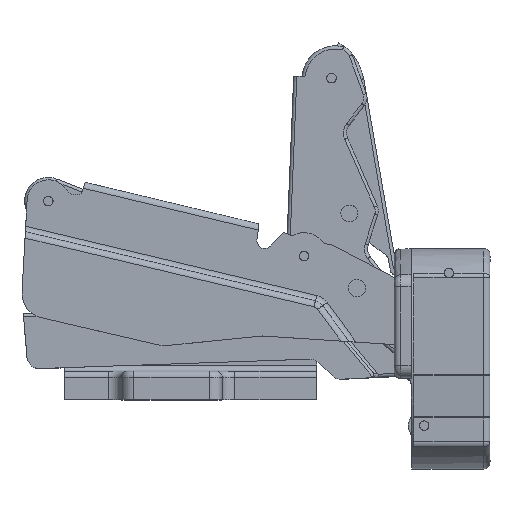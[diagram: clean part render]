
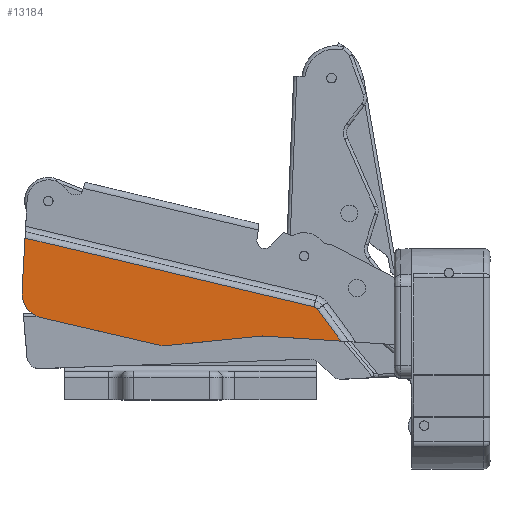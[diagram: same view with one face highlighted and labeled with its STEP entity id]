
A CAD part, top view. The second image highlights one B-rep face of the part: STEP entity #13184.
In plain terms, the highlighted planar face has unit normal (0, 0, 1).
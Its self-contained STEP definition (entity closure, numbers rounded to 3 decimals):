
#965=LINE('',#21919,#1921);
#972=LINE('',#21950,#1928);
#973=LINE('',#21964,#1929);
#1003=LINE('',#22048,#1959);
#1006=LINE('',#22056,#1962);
#1009=LINE('',#22064,#1965);
#1921=VECTOR('',#17345,8.529);
#1928=VECTOR('',#17378,6.237);
#1929=VECTOR('',#17385,47.136);
#1959=VECTOR('',#17485,12.279);
#1962=VECTOR('',#17494,15.413);
#1965=VECTOR('',#17503,19.431);
#2463=PLANE('',#14394);
#3129=FACE_OUTER_BOUND('',#3929,.T.);
#3929=EDGE_LOOP('',(#10326,#10327,#10328,#10329,#10330,#10331,#10332,#10333,
#10334,#10335));
#4676=CIRCLE('',#14349,1.);
#4686=CIRCLE('',#14387,2.);
#4687=CIRCLE('',#14390,2.);
#4688=CIRCLE('',#14393,4.);
#5725=VERTEX_POINT('',#21916);
#5726=VERTEX_POINT('',#21918);
#5736=VERTEX_POINT('',#21946);
#5737=VERTEX_POINT('',#21948);
#5738=VERTEX_POINT('',#21960);
#5757=VERTEX_POINT('',#22047);
#5758=VERTEX_POINT('',#22051);
#5759=VERTEX_POINT('',#22055);
#5760=VERTEX_POINT('',#22059);
#5761=VERTEX_POINT('',#22063);
#7277=EDGE_CURVE('',#5726,#5725,#965,.T.);
#7293=EDGE_CURVE('',#5737,#5736,#972,.T.);
#7295=EDGE_CURVE('',#5738,#5737,#4676,.T.);
#7296=EDGE_CURVE('',#5726,#5738,#973,.T.);
#7335=EDGE_CURVE('',#5757,#5736,#1003,.T.);
#7337=EDGE_CURVE('',#5758,#5757,#4686,.T.);
#7339=EDGE_CURVE('',#5759,#5758,#1006,.T.);
#7341=EDGE_CURVE('',#5760,#5759,#4687,.T.);
#7343=EDGE_CURVE('',#5761,#5760,#1009,.T.);
#7345=EDGE_CURVE('',#5725,#5761,#4688,.T.);
#10326=ORIENTED_EDGE('',*,*,#7296,.F.);
#10327=ORIENTED_EDGE('',*,*,#7277,.T.);
#10328=ORIENTED_EDGE('',*,*,#7345,.T.);
#10329=ORIENTED_EDGE('',*,*,#7343,.T.);
#10330=ORIENTED_EDGE('',*,*,#7341,.T.);
#10331=ORIENTED_EDGE('',*,*,#7339,.T.);
#10332=ORIENTED_EDGE('',*,*,#7337,.T.);
#10333=ORIENTED_EDGE('',*,*,#7335,.T.);
#10334=ORIENTED_EDGE('',*,*,#7293,.F.);
#10335=ORIENTED_EDGE('',*,*,#7295,.F.);
#13184=ADVANCED_FACE('',(#3129),#2463,.T.);
#14349=AXIS2_PLACEMENT_3D('',#21962,#17381,#17382);
#14387=AXIS2_PLACEMENT_3D('',#22052,#17489,#17490);
#14390=AXIS2_PLACEMENT_3D('',#22060,#17498,#17499);
#14393=AXIS2_PLACEMENT_3D('',#22067,#17507,#17508);
#14394=AXIS2_PLACEMENT_3D('',#22068,#17509,#17510);
#17345=DIRECTION('',(-0.034,-0.999,0.));
#17378=DIRECTION('',(0.608,-0.794,0.));
#17381=DIRECTION('center_axis',(0.,0.,-1.));
#17382=DIRECTION('ref_axis',(0.535,0.845,0.));
#17385=DIRECTION('',(0.978,-0.21,0.));
#17485=DIRECTION('',(0.999,-0.044,0.));
#17489=DIRECTION('center_axis',(0.,0.,-1.));
#17490=DIRECTION('ref_axis',(-0.044,-0.999,0.));
#17494=DIRECTION('',(0.993,0.121,0.));
#17498=DIRECTION('center_axis',(0.,0.,1.));
#17499=DIRECTION('ref_axis',(-0.205,-0.979,0.));
#17503=DIRECTION('',(0.979,-0.205,0.));
#17507=DIRECTION('center_axis',(0.,0.,1.));
#17508=DIRECTION('ref_axis',(-0.999,0.034,0.));
#17509=DIRECTION('center_axis',(0.,0.,1.));
#17510=DIRECTION('ref_axis',(1.,0.,0.));
#21916=CARTESIAN_POINT('',(25.988,24.034,11.7));
#21918=CARTESIAN_POINT('',(26.276,32.558,11.7));
#21919=CARTESIAN_POINT('',(26.482,38.628,11.7));
#21946=CARTESIAN_POINT('',(76.732,17.32,11.7));
#21948=CARTESIAN_POINT('',(72.941,22.272,11.7));
#21950=CARTESIAN_POINT('',(84.326,7.399,11.7));
#21960=CARTESIAN_POINT('',(72.357,22.642,11.7));
#21962=CARTESIAN_POINT('Origin',(72.147,21.664,11.7));
#21964=CARTESIAN_POINT('',(83.16,20.317,11.7));
#22047=CARTESIAN_POINT('',(64.465,17.854,11.7));
#22048=CARTESIAN_POINT('',(64.465,17.854,11.7));
#22051=CARTESIAN_POINT('',(64.135,17.841,11.7));
#22052=CARTESIAN_POINT('Origin',(64.378,15.856,11.7));
#22055=CARTESIAN_POINT('',(48.836,15.971,11.7));
#22056=CARTESIAN_POINT('',(48.836,15.971,11.7));
#22059=CARTESIAN_POINT('',(48.183,15.999,11.7));
#22060=CARTESIAN_POINT('Origin',(48.593,17.957,11.7));
#22063=CARTESIAN_POINT('',(29.165,19.984,11.7));
#22064=CARTESIAN_POINT('',(29.165,19.984,11.7));
#22067=CARTESIAN_POINT('Origin',(29.985,23.899,11.7));
#22068=CARTESIAN_POINT('Origin',(90.242,4.196,11.7));
